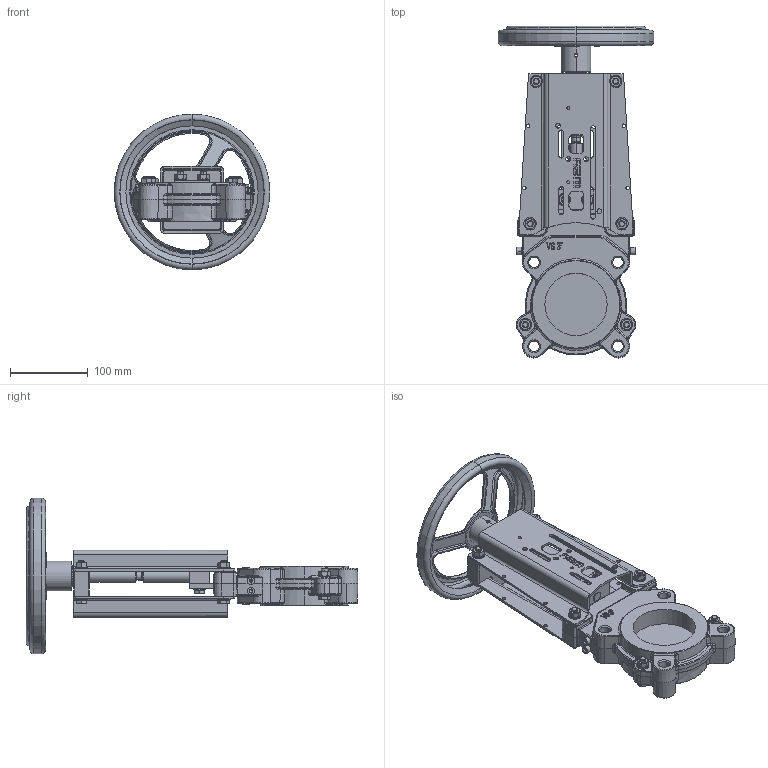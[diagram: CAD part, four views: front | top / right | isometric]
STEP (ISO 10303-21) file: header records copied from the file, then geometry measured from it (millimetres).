
FILE_DESCRIPTION (( 'STEP AP214' ), '1' );
FILE_NAME ('VSA DN 0080.STEP', '2015-09-23T10:54:19', ( 'admin' ), ( 'Hewlett-Packard Company' ), 'SwSTEP 2.0', 'SolidWorks 2013', '' );
FILE_SCHEMA (( 'AUTOMOTIVE_DESIGN' ));
Length unit declared in the file: millimetre
Products named in the file (1): VSA DN 0080
Bounding box: 200 x 426.36 x 200 mm (x, y, z)
Volume: 1279245.1 mm3; surface area: 396042 mm2
Topology: 40 solids, 41 shells, 1901 faces, 4629 edges, 2785 vertices
Faces by surface type: plane 668, cylinder 538, cone 317, bspline 198, torus 180
Entity records: 87260 total; most frequent: CARTESIAN_POINT 22319, ORIENTED_EDGE 9150, DIRECTION 9052, EDGE_CURVE 4575, AXIS2_PLACEMENT_3D 3548, VERTEX_POINT 2785, EDGE_LOOP 2106, LINE 1956
